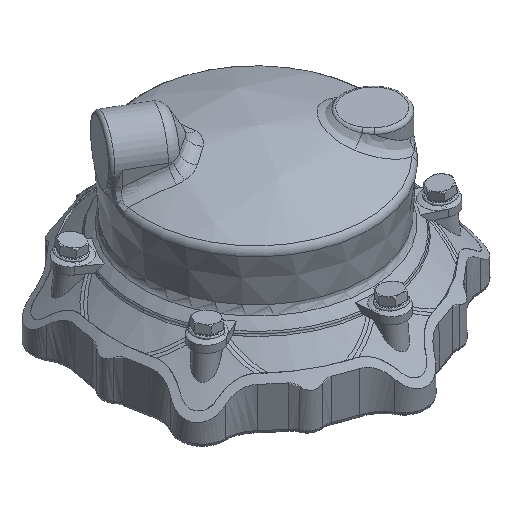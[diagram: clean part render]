
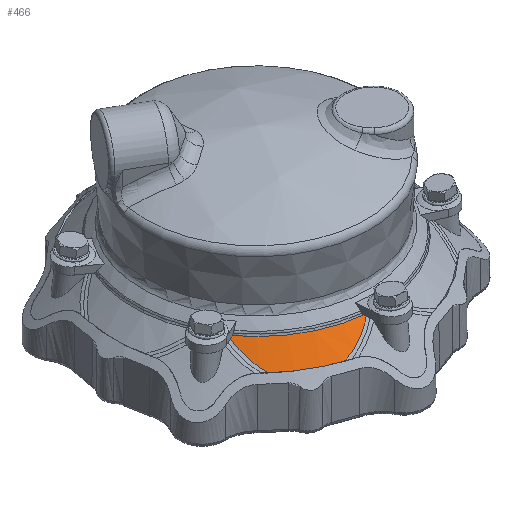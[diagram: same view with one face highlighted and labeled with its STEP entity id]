
A CAD part, isometric view. The second image highlights one B-rep face of the part: STEP entity #466.
In plain terms, the highlighted conical face has half-angle 45 degrees and reference radius 240 mm.
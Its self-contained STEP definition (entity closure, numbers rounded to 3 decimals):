
#466 = ADVANCED_FACE ( 'NONE', ( #11740 ), #11746, .T. ) ;
#942 = AXIS2_PLACEMENT_3D ( 'NONE', #6585, #6583, #6581 ) ;
#2205 = ORIENTED_EDGE ( 'NONE', *, *, #5710, .T. ) ;
#2206 = ORIENTED_EDGE ( 'NONE', *, *, #20194, .T. ) ;
#2207 = ORIENTED_EDGE ( 'NONE', *, *, #5671, .T. ) ;
#2208 = ORIENTED_EDGE ( 'NONE', *, *, #5702, .T. ) ;
#2511 = VERTEX_POINT ( 'NONE', #22889 ) ;
#2526 = VERTEX_POINT ( 'NONE', #22904 ) ;
#2831 = EDGE_LOOP ( 'NONE', ( #2205, #2206, #2207, #2208 ) ) ;
#4761 = AXIS2_PLACEMENT_3D ( 'NONE', #14911, #14912, #14913 ) ;
#5671 = EDGE_CURVE ( 'NONE', #31089, #2511, #31598, .T. ) ;
#5702 = EDGE_CURVE ( 'NONE', #2511, #2526, #26922, .T. ) ;
#5710 = EDGE_CURVE ( 'NONE', #2526, #31274, #31618, .T. ) ;
#6581 = DIRECTION ( 'NONE',  ( 0.5, -0.866, 0. ) ) ;
#6583 = DIRECTION ( 'NONE',  ( 0., 0., -1. ) ) ;
#6585 = CARTESIAN_POINT ( 'NONE',  ( 0., 0., -160.101 ) ) ;
#11740 = FACE_OUTER_BOUND ( 'NONE', #2831, .T. ) ;
#11746 = CONICAL_SURFACE ( 'NONE', #942, 240., 0.785 ) ;
#12943 = CARTESIAN_POINT ( 'NONE',  ( -123.473, -160.48, -122.143 ) ) ;
#12970 = CARTESIAN_POINT ( 'NONE',  ( -133.49, -151.663, -122.143 ) ) ;
#12973 = CARTESIAN_POINT ( 'NONE',  ( -112.579, -168.302, -122.143 ) ) ;
#12974 = CARTESIAN_POINT ( 'NONE',  ( -95.243, -178.31, -122.143 ) ) ;
#12975 = CARTESIAN_POINT ( 'NONE',  ( -89.298, -181.361, -122.143 ) ) ;
#12976 = CARTESIAN_POINT ( 'NONE',  ( -77.138, -186.857, -122.143 ) ) ;
#12977 = CARTESIAN_POINT ( 'NONE',  ( -70.922, -189.304, -122.143 ) ) ;
#12978 = CARTESIAN_POINT ( 'NONE',  ( -64.599, -191.437, -122.143 ) ) ;
#14661 = CARTESIAN_POINT ( 'NONE',  ( -60.122, -191.103, -120.394 ) ) ;
#14662 = CARTESIAN_POINT ( 'NONE',  ( -64.599, -191.437, -122.143 ) ) ;
#14669 = CARTESIAN_POINT ( 'NONE',  ( -55.76, -190.468, -118.525 ) ) ;
#14670 = CARTESIAN_POINT ( 'NONE',  ( -49.384, -189.11, -115.543 ) ) ;
#14671 = CARTESIAN_POINT ( 'NONE',  ( -47.286, -188.589, -114.519 ) ) ;
#14672 = CARTESIAN_POINT ( 'NONE',  ( -44.181, -187.709, -112.937 ) ) ;
#14673 = CARTESIAN_POINT ( 'NONE',  ( -43.153, -187.399, -112.402 ) ) ;
#14674 = CARTESIAN_POINT ( 'NONE',  ( -41.11, -186.747, -111.317 ) ) ;
#14675 = CARTESIAN_POINT ( 'NONE',  ( -40.094, -186.405, -110.766 ) ) ;
#14676 = CARTESIAN_POINT ( 'NONE',  ( -35.064, -184.615, -107.98 ) ) ;
#14677 = CARTESIAN_POINT ( 'NONE',  ( -31.208, -182.947, -105.66 ) ) ;
#14678 = CARTESIAN_POINT ( 'NONE',  ( -25.663, -180.127, -102.038 ) ) ;
#14679 = CARTESIAN_POINT ( 'NONE',  ( -23.854, -179.133, -100.807 ) ) ;
#14680 = CARTESIAN_POINT ( 'NONE',  ( -20.317, -177.042, -98.297 ) ) ;
#14681 = CARTESIAN_POINT ( 'NONE',  ( -18.59, -175.946, -97.019 ) ) ;
#14682 = CARTESIAN_POINT ( 'NONE',  ( -16.911, -174.806, -95.723 ) ) ;
#14911 = CARTESIAN_POINT ( 'NONE',  ( 0., 0., -95.723 ) ) ;
#14912 = DIRECTION ( 'NONE',  ( 0., 0., -1. ) ) ;
#14913 = DIRECTION ( 'NONE',  ( -0.5, 0.866, 0. ) ) ;
#14931 = CARTESIAN_POINT ( 'NONE',  ( -143.078, -104.068, -97.016 ) ) ;
#14959 = CARTESIAN_POINT ( 'NONE',  ( -142.931, -102.048, -95.723 ) ) ;
#14960 = CARTESIAN_POINT ( 'NONE',  ( -143.164, -106.103, -98.289 ) ) ;
#14961 = CARTESIAN_POINT ( 'NONE',  ( -143.206, -110.2, -100.793 ) ) ;
#14962 = CARTESIAN_POINT ( 'NONE',  ( -143.164, -112.264, -102.024 ) ) ;
#14963 = CARTESIAN_POINT ( 'NONE',  ( -142.835, -118.49, -105.654 ) ) ;
#14964 = CARTESIAN_POINT ( 'NONE',  ( -142.35, -122.664, -107.975 ) ) ;
#14965 = CARTESIAN_POINT ( 'NONE',  ( -141.195, -128.955, -111.313 ) ) ;
#14966 = CARTESIAN_POINT ( 'NONE',  ( -140.74, -131.049, -112.397 ) ) ;
#14967 = CARTESIAN_POINT ( 'NONE',  ( -139.687, -135.22, -114.506 ) ) ;
#14968 = CARTESIAN_POINT ( 'NONE',  ( -139.09, -137.298, -115.53 ) ) ;
#14969 = CARTESIAN_POINT ( 'NONE',  ( -137.748, -141.437, -117.522 ) ) ;
#14970 = CARTESIAN_POINT ( 'NONE',  ( -137.003, -143.498, -118.488 ) ) ;
#14971 = CARTESIAN_POINT ( 'NONE',  ( -135.361, -147.602, -120.363 ) ) ;
#14972 = CARTESIAN_POINT ( 'NONE',  ( -134.462, -149.645, -121.271 ) ) ;
#14973 = CARTESIAN_POINT ( 'NONE',  ( -133.49, -151.663, -122.143 ) ) ;
#20194 = EDGE_CURVE ( 'NONE', #31274, #31089, #31945, .T. ) ;
#22889 = CARTESIAN_POINT ( 'NONE',  ( -16.911, -174.806, -95.723 ) ) ;
#22904 = CARTESIAN_POINT ( 'NONE',  ( -142.931, -102.048, -95.723 ) ) ;
#26922 = CIRCLE ( 'NONE', #4761, 175.622 ) ;
#28379 = CARTESIAN_POINT ( 'NONE',  ( -64.599, -191.437, -122.143 ) ) ;
#28561 = CARTESIAN_POINT ( 'NONE',  ( -133.49, -151.663, -122.143 ) ) ;
#31089 = VERTEX_POINT ( 'NONE', #28379 ) ;
#31274 = VERTEX_POINT ( 'NONE', #28561 ) ;
#31598 = B_SPLINE_CURVE_WITH_KNOTS ( 'NONE', 3,
 ( #14662, #14661, #14669, #14670, #14671, #14672, #14673, #14674, #14675, #14676, #14677, #14678, #14679, #14680, #14681, #14682 ),
 .UNSPECIFIED., .F., .F.,
 ( 4, 2, 2, 2, 2, 2, 2, 4 ),
 ( 0.006, 0.02, 0.027, 0.031, 0.035, 0.049, 0.056, 0.063 ),
 .UNSPECIFIED. ) ;
#31618 = B_SPLINE_CURVE_WITH_KNOTS ( 'NONE', 3,
 ( #14959, #14931, #14960, #14961, #14962, #14963, #14964, #14965, #14966, #14967, #14968, #14969, #14970, #14971, #14972, #14973 ),
 .UNSPECIFIED., .F., .F.,
 ( 4, 2, 2, 2, 2, 2, 2, 4 ),
 ( 0.002, 0.009, 0.016, 0.031, 0.038, 0.045, 0.052, 0.059 ),
 .UNSPECIFIED. ) ;
#31945 = B_SPLINE_CURVE_WITH_KNOTS ( 'NONE', 3,
 ( #12970, #12943, #12973, #12974, #12975, #12976, #12977, #12978 ),
 .UNSPECIFIED., .F., .F.,
 ( 4, 2, 2, 4 ),
 ( 0.011, 0.051, 0.071, 0.091 ),
 .UNSPECIFIED. ) ;
